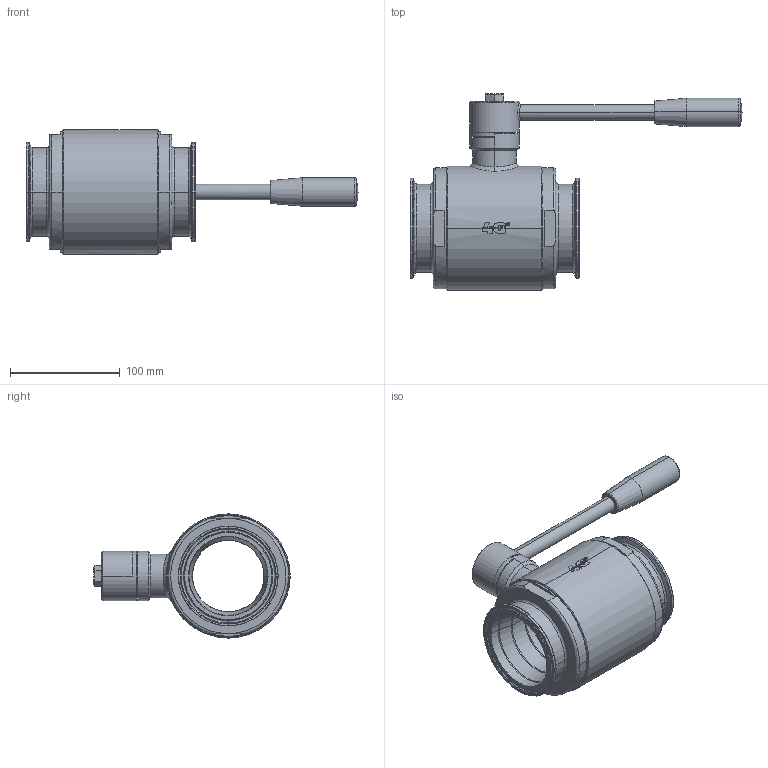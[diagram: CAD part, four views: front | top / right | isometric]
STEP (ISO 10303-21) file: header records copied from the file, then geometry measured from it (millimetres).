
FILE_DESCRIPTION((''),'2;1');
FILE_NAME('13013064710_SW0002','2025-04-11T14:11:31',('alfio.taboni'),('CDM Tecnoconsulting'),'CREO PARAMETRIC BY PTC INC, 2024063','CREO PARAMETRIC BY PTC INC, 2024063','');
FILE_SCHEMA(('CONFIG_CONTROL_DESIGN','SHAPE_APPEARANCE_LAYERS_GROUPS'));
Products named in the file (1): 13013064710_SW0002
Bounding box: 302.5 x 179 x 113 mm (x, y, z)
Volume: 924332.7 mm3; surface area: 178186.7 mm2
Topology: 1 solids, 2 shells, 851 faces, 2329 edges, 1476 vertices
Faces by surface type: plane 368, cylinder 148, extrusion 109, cone 82, torus 68, bspline 62, sphere 14
Entity records: 56388 total; most frequent: CARTESIAN_POINT 27804, ORIENTED_EDGE 4618, DIRECTION 3651, PRESENTATION_STYLE_ASSIGNMENT 2475, STYLED_ITEM 2310, CURVE_STYLE 2309, EDGE_CURVE 2309, VERTEX_POINT 1476
